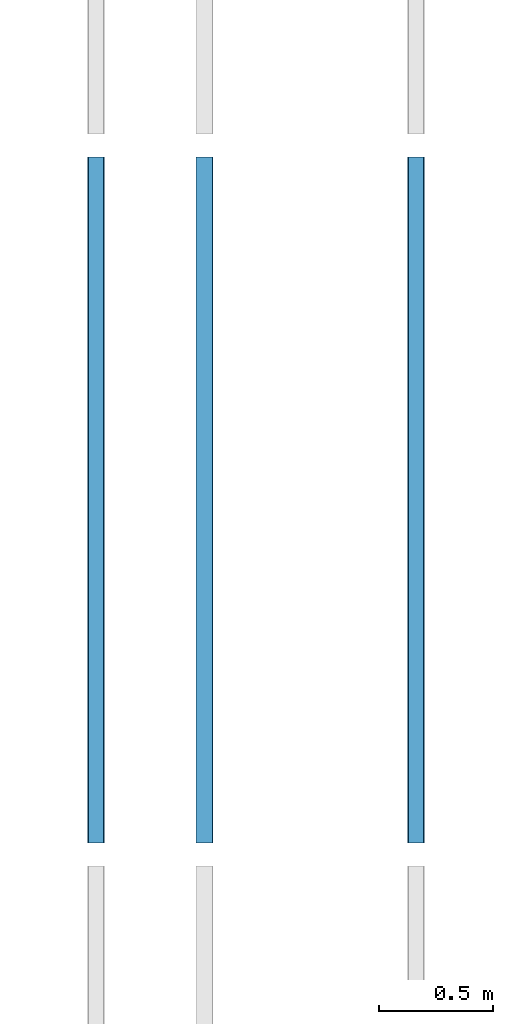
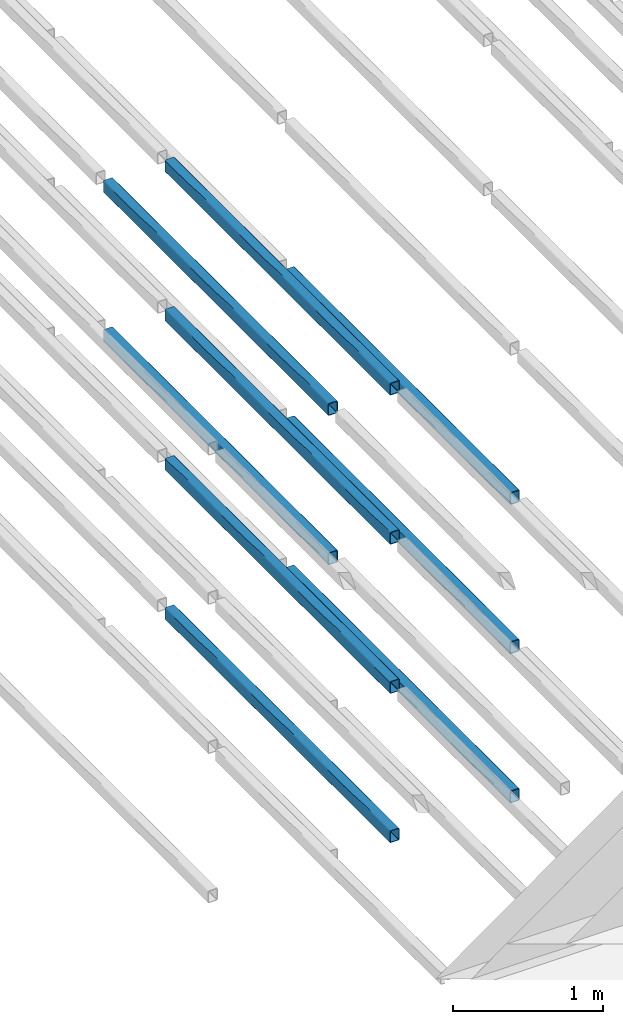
# One storey, part 26 of 290: 9 beams.
"""IFC2X3 building model written with IfcOpenShell, lengths in metres."""

from ifc_helpers import new_model, entity, si_unit, converted_unit, derived_unit, direction, frame, frame_2d, origin, place, context, subcontext, project, spatial, polyline, circle_curve, parameter, trimmed, segment, composite_curve, outline, extrude, material, type_object, element, save


model = new_model("IFC2X3")

# Units and contexts
model_context = context("Model", 3, precision=1e-05, world=origin(), true_north=direction((6.12303176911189e-17, 1.0)))
body_context = subcontext(model_context, "Body", "Model", "MODEL_VIEW")
ifc_project = project(units=[si_unit("LENGTHUNIT", "METRE"), si_unit("AREAUNIT", "SQUARE_METRE"), si_unit("VOLUMEUNIT", "CUBIC_METRE"), converted_unit("PLANEANGLEUNIT", "DEGREE", entity("IfcRatioMeasure", 0.0174532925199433), si_unit("PLANEANGLEUNIT", "RADIAN"), dimensions=[0, 0, 0, 0, 0, 0, 0]), si_unit("MASSUNIT", "GRAM", prefix="KILO"), derived_unit("MASSDENSITYUNIT", [(si_unit("MASSUNIT", "GRAM", prefix="KILO"), 1), (si_unit("LENGTHUNIT", "METRE"), -3)]), derived_unit("MOMENTOFINERTIAUNIT", [(si_unit("LENGTHUNIT", "METRE"), 4)]), si_unit("TIMEUNIT", "SECOND"), si_unit("FREQUENCYUNIT", "HERTZ"), si_unit("THERMODYNAMICTEMPERATUREUNIT", "DEGREE_CELSIUS"), derived_unit("THERMALTRANSMITTANCEUNIT", [(si_unit("MASSUNIT", "GRAM", prefix="KILO"), 1), (si_unit("THERMODYNAMICTEMPERATUREUNIT", "KELVIN"), -1), (si_unit("TIMEUNIT", "SECOND"), -3)]), derived_unit("VOLUMETRICFLOWRATEUNIT", [(si_unit("LENGTHUNIT", "METRE"), 3), (si_unit("TIMEUNIT", "SECOND"), -1)]), si_unit("ELECTRICCURRENTUNIT", "AMPERE"), si_unit("ELECTRICVOLTAGEUNIT", "VOLT"), si_unit("POWERUNIT", "WATT"), si_unit("FORCEUNIT", "NEWTON", prefix="KILO"), si_unit("ILLUMINANCEUNIT", "LUX"), si_unit("LUMINOUSFLUXUNIT", "LUMEN"), si_unit("LUMINOUSINTENSITYUNIT", "CANDELA"), derived_unit("USERDEFINED", [(si_unit("MASSUNIT", "GRAM", prefix="KILO"), -1), (si_unit("LENGTHUNIT", "METRE"), -2), (si_unit("TIMEUNIT", "SECOND"), 3), (si_unit("LUMINOUSFLUXUNIT", "LUMEN"), 1)]), derived_unit("LINEARVELOCITYUNIT", [(si_unit("LENGTHUNIT", "METRE"), 1), (si_unit("TIMEUNIT", "SECOND"), -1)]), si_unit("PRESSUREUNIT", "PASCAL"), derived_unit("USERDEFINED", [(si_unit("LENGTHUNIT", "METRE"), -2), (si_unit("MASSUNIT", "GRAM", prefix="KILO"), 1), (si_unit("TIMEUNIT", "SECOND"), -2)]), derived_unit("LINEARFORCEUNIT", [(si_unit("MASSUNIT", "GRAM", prefix="KILO"), 1), (si_unit("LENGTHUNIT", "METRE"), 1), (si_unit("TIMEUNIT", "SECOND"), -2), (si_unit("LENGTHUNIT", "METRE"), -1)]), derived_unit("PLANARFORCEUNIT", [(si_unit("MASSUNIT", "GRAM", prefix="KILO"), 1), (si_unit("LENGTHUNIT", "METRE"), 1), (si_unit("TIMEUNIT", "SECOND"), -2), (si_unit("LENGTHUNIT", "METRE"), -2)])], contexts=[model_context])

# Site, building, storey
site_placement = place(None, origin())
site = spatial("IfcSite", under=ifc_project, at=site_placement, Name="Default", CompositionType="ELEMENT")
building_placement = place(site_placement, origin())
building = spatial("IfcBuilding", under=site, at=building_placement, CompositionType="ELEMENT")
storey_placement = place(building_placement, frame((0.0, 0.0, 4.0)))
storey = spatial("IfcBuildingStorey", under=building, at=storey_placement, Name="01_OG", CompositionType="ELEMENT", Elevation=4.0)

# Beams
ifc_material = material(Name="Metall - Baustahl S235 blau")
beam_type = type_object("IfcBeamType", Name="RHS Träger (EN 10219-2):RHS 100 x 75 x 5", PredefinedType="NOTDEFINED")
beam_1_placement = place(storey_placement, frame((-189.865111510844, 27.148088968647, 1.23), z_axis=(0.0, 0.0, 1.0), x_axis=(0.0, 1.0, 0.0)))
element("IfcBeam", 1, at=beam_1_placement, inside=storey, type_object=beam_type, material=ifc_material, Name="RHS Träger (EN 10219-2):RHS 100 x 75 x 5", ObjectType="RHS Träger (EN 10219-2):RHS 100 x 75 x 5", context=body_context, shape_type="SweptSolid", body=[
    extrude(outline(composite_curve([segment(polyline([(-0.0399999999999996, -0.0375000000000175), (0.0399999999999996, -0.0375000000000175)]), True, "CONTINUOUS"), segment(trimmed(circle_curve(frame_2d((0.0399999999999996, -0.0275000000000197), x_axis=(0.0, 1.0)), 0.01), [parameter(180.0)], [parameter(270.0)], True, "PARAMETER"), True, "CONTINUOUS"), segment(polyline([(0.0500000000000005, -0.0275000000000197), (0.0500000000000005, 0.0274999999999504)]), True, "CONTINUOUS"), segment(trimmed(circle_curve(frame_2d((0.0399999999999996, 0.0274999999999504), x_axis=(0.0, 1.0)), 0.01), [parameter(270.0)], [parameter(4.07110999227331e-13)], True, "PARAMETER"), True, "CONTINUOUS"), segment(polyline([(0.0399999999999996, 0.0374999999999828), (-0.0399999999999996, 0.0374999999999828)]), True, "CONTINUOUS"), segment(trimmed(circle_curve(frame_2d((-0.0399999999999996, 0.0274999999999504), x_axis=(0.0, 1.0)), 0.01), [parameter(360.0)], [parameter(90.0000000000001)], True, "PARAMETER"), True, "CONTINUOUS"), segment(polyline([(-0.0499999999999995, 0.0274999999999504), (-0.0499999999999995, -0.0275000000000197)]), True, "CONTINUOUS"), segment(trimmed(circle_curve(frame_2d((-0.0399999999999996, -0.0275000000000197), x_axis=(0.0, 1.0)), 0.01), [parameter(90.0000000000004)], [parameter(180.0)], True, "PARAMETER"), True, "CONTINUOUS")], self_intersect=False), holes=[composite_curve([segment(trimmed(circle_curve(frame_2d((-0.0400000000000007, 0.0274999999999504), x_axis=(0.0, 1.0)), 0.005), [parameter(360.0)], [parameter(89.9999999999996)], True, "PARAMETER"), False, "CONTINUOUS"), segment(polyline([(-0.0400000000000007, 0.0324999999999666), (0.0399999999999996, 0.0324999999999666)]), True, "CONTINUOUS"), segment(trimmed(circle_curve(frame_2d((0.0399999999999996, 0.0274999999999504), x_axis=(0.0, 1.0)), 0.005), [parameter(270.0)], [parameter(0.0)], True, "PARAMETER"), False, "CONTINUOUS"), segment(polyline([(0.0449999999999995, 0.0274999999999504), (0.0449999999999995, -0.0275000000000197)]), True, "CONTINUOUS"), segment(trimmed(circle_curve(frame_2d((0.0399999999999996, -0.0275000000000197), x_axis=(0.0, 1.0)), 0.005), [parameter(180.0)], [parameter(269.999999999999)], True, "PARAMETER"), False, "CONTINUOUS"), segment(polyline([(0.0399999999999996, -0.0325000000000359), (-0.0400000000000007, -0.0325000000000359)]), True, "CONTINUOUS"), segment(trimmed(circle_curve(frame_2d((-0.0400000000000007, -0.0275000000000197), x_axis=(0.0, 1.0)), 0.005), [parameter(90.0000000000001)], [parameter(180.0)], True, "PARAMETER"), False, "CONTINUOUS"), segment(polyline([(-0.0450000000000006, -0.0275000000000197), (-0.0450000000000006, 0.0274999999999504)]), True, "CONTINUOUS")], self_intersect=False)]), frame((9.99999999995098e-05, -0.0374999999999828, -0.0500000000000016), z_axis=(1.0, 0.0, 0.0), x_axis=(0.0, 0.0, -1.0)), (0.0, 0.0, 1.0), 2.9998),
])
beam_2_placement = place(storey_placement, frame((-189.865111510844, 27.148088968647, 2.445), z_axis=(0.0, 0.0, 1.0), x_axis=(0.0, 1.0, 0.0)))
element("IfcBeam", 2, at=beam_2_placement, inside=storey, type_object=beam_type, material=ifc_material, Name="RHS Träger (EN 10219-2):RHS 100 x 75 x 5", ObjectType="RHS Träger (EN 10219-2):RHS 100 x 75 x 5", context=body_context, shape_type="SweptSolid", body=[
    extrude(outline(composite_curve([segment(polyline([(-0.0399999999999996, -0.0375000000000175), (0.0399999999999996, -0.0375000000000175)]), True, "CONTINUOUS"), segment(trimmed(circle_curve(frame_2d((0.0399999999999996, -0.0275000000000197), x_axis=(0.0, 1.0)), 0.01), [parameter(180.0)], [parameter(270.0)], True, "PARAMETER"), True, "CONTINUOUS"), segment(polyline([(0.0500000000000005, -0.0275000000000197), (0.0500000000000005, 0.0274999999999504)]), True, "CONTINUOUS"), segment(trimmed(circle_curve(frame_2d((0.0399999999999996, 0.0274999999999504), x_axis=(0.0, 1.0)), 0.01), [parameter(270.0)], [parameter(4.07110999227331e-13)], True, "PARAMETER"), True, "CONTINUOUS"), segment(polyline([(0.0399999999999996, 0.0374999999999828), (-0.0399999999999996, 0.0374999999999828)]), True, "CONTINUOUS"), segment(trimmed(circle_curve(frame_2d((-0.0399999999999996, 0.0274999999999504), x_axis=(0.0, 1.0)), 0.01), [parameter(360.0)], [parameter(90.0000000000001)], True, "PARAMETER"), True, "CONTINUOUS"), segment(polyline([(-0.0499999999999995, 0.0274999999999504), (-0.0499999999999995, -0.0275000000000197)]), True, "CONTINUOUS"), segment(trimmed(circle_curve(frame_2d((-0.0399999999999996, -0.0275000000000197), x_axis=(0.0, 1.0)), 0.01), [parameter(90.0000000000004)], [parameter(180.0)], True, "PARAMETER"), True, "CONTINUOUS")], self_intersect=False), holes=[composite_curve([segment(trimmed(circle_curve(frame_2d((-0.0400000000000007, 0.0274999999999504), x_axis=(0.0, 1.0)), 0.005), [parameter(360.0)], [parameter(89.9999999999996)], True, "PARAMETER"), False, "CONTINUOUS"), segment(polyline([(-0.0400000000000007, 0.0324999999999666), (0.0399999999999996, 0.0324999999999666)]), True, "CONTINUOUS"), segment(trimmed(circle_curve(frame_2d((0.0399999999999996, 0.0274999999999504), x_axis=(0.0, 1.0)), 0.005), [parameter(270.0)], [parameter(0.0)], True, "PARAMETER"), False, "CONTINUOUS"), segment(polyline([(0.0449999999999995, 0.0274999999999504), (0.0449999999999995, -0.0275000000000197)]), True, "CONTINUOUS"), segment(trimmed(circle_curve(frame_2d((0.0399999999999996, -0.0275000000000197), x_axis=(0.0, 1.0)), 0.005), [parameter(180.0)], [parameter(269.999999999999)], True, "PARAMETER"), False, "CONTINUOUS"), segment(polyline([(0.0399999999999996, -0.0325000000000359), (-0.0400000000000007, -0.0325000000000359)]), True, "CONTINUOUS"), segment(trimmed(circle_curve(frame_2d((-0.0400000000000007, -0.0275000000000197), x_axis=(0.0, 1.0)), 0.005), [parameter(90.0000000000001)], [parameter(180.0)], True, "PARAMETER"), False, "CONTINUOUS"), segment(polyline([(-0.0450000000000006, -0.0275000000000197), (-0.0450000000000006, 0.0274999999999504)]), True, "CONTINUOUS")], self_intersect=False)]), frame((9.99999999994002e-05, -0.0374999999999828, -0.0500000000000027), z_axis=(1.0, 0.0, 0.0), x_axis=(0.0, 0.0, -1.0)), (0.0, 0.0, 1.0), 2.9998),
])
beam_3_placement = place(storey_placement, frame((-189.315111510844, 27.148088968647, -1.2), z_axis=(0.0, 0.0, 1.0), x_axis=(0.0, 1.0, 0.0)))
element("IfcBeam", 3, at=beam_3_placement, inside=storey, type_object=beam_type, material=ifc_material, Name="RHS Träger (EN 10219-2):RHS 100 x 75 x 5", ObjectType="RHS Träger (EN 10219-2):RHS 100 x 75 x 5", context=body_context, shape_type="SweptSolid", body=[
    extrude(outline(composite_curve([segment(trimmed(circle_curve(frame_2d((-0.0274999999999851, -0.0400000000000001), x_axis=(1.0, 0.0)), 0.01), [parameter(180.0)], [parameter(270.0)], True, "PARAMETER"), True, "CONTINUOUS"), segment(polyline([(-0.0274999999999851, -0.05), (0.0274999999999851, -0.05)]), True, "CONTINUOUS"), segment(trimmed(circle_curve(frame_2d((0.0274999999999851, -0.0400000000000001), x_axis=(1.0, 0.0)), 0.01), [parameter(270.0)], [parameter(5.08888749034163e-14)], True, "PARAMETER"), True, "CONTINUOUS"), segment(polyline([(0.0375000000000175, -0.0400000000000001), (0.0375000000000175, 0.0400000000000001)]), True, "CONTINUOUS"), segment(trimmed(circle_curve(frame_2d((0.0274999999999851, 0.0400000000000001), x_axis=(1.0, 0.0)), 0.01), [parameter(360.0)], [parameter(89.9999999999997)], True, "PARAMETER"), True, "CONTINUOUS"), segment(polyline([(0.0274999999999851, 0.05), (-0.0274999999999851, 0.05)]), True, "CONTINUOUS"), segment(trimmed(circle_curve(frame_2d((-0.0274999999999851, 0.0400000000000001), x_axis=(1.0, 0.0)), 0.01), [parameter(90.0000000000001)], [parameter(180.0)], True, "PARAMETER"), True, "CONTINUOUS"), segment(polyline([(-0.0374999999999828, 0.0400000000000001), (-0.0374999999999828, -0.0400000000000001)]), True, "CONTINUOUS")], self_intersect=False), holes=[composite_curve([segment(polyline([(0.0274999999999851, -0.0450000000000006), (-0.0274999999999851, -0.0450000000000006)]), True, "CONTINUOUS"), segment(trimmed(circle_curve(frame_2d((-0.0274999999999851, -0.0400000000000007), x_axis=(1.0, 0.0)), 0.005), [parameter(180.0)], [parameter(270.0)], True, "PARAMETER"), False, "CONTINUOUS"), segment(polyline([(-0.0325000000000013, -0.0400000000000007), (-0.0325000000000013, 0.039999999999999)]), True, "CONTINUOUS"), segment(trimmed(circle_curve(frame_2d((-0.0274999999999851, 0.039999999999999), x_axis=(1.0, 0.0)), 0.005), [parameter(90.0000000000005)], [parameter(180.0)], True, "PARAMETER"), False, "CONTINUOUS"), segment(polyline([(-0.0274999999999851, 0.044999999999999), (0.0274999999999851, 0.044999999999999)]), True, "CONTINUOUS"), segment(trimmed(circle_curve(frame_2d((0.0274999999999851, 0.039999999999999), x_axis=(1.0, 0.0)), 0.005), [parameter(0.0)], [parameter(90.0000000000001)], True, "PARAMETER"), False, "CONTINUOUS"), segment(polyline([(0.0325000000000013, 0.039999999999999), (0.0325000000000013, -0.0400000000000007)]), True, "CONTINUOUS"), segment(trimmed(circle_curve(frame_2d((0.0274999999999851, -0.0400000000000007), x_axis=(1.0, 0.0)), 0.005), [parameter(270.0)], [parameter(4.07110999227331e-13)], True, "PARAMETER"), False, "CONTINUOUS")], self_intersect=False)]), frame((0.000100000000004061, 0.0375000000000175, -0.0500000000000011), z_axis=(1.0, 0.0, 0.0), x_axis=(0.0, -1.0, 0.0)), (0.0, 0.0, 1.0), 2.9998),
])
beam_4_placement = place(storey_placement, frame((-189.315111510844, 27.148088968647, 0.0150000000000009), z_axis=(0.0, 0.0, 1.0), x_axis=(0.0, 1.0, 0.0)))
element("IfcBeam", 4, at=beam_4_placement, inside=storey, type_object=beam_type, material=ifc_material, Name="RHS Träger (EN 10219-2):RHS 100 x 75 x 5", ObjectType="RHS Träger (EN 10219-2):RHS 100 x 75 x 5", context=body_context, shape_type="SweptSolid", body=[
    extrude(outline(composite_curve([segment(trimmed(circle_curve(frame_2d((-0.0274999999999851, -0.0400000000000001), x_axis=(1.0, 0.0)), 0.01), [parameter(180.0)], [parameter(270.0)], True, "PARAMETER"), True, "CONTINUOUS"), segment(polyline([(-0.0274999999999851, -0.05), (0.0274999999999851, -0.05)]), True, "CONTINUOUS"), segment(trimmed(circle_curve(frame_2d((0.0274999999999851, -0.0400000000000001), x_axis=(1.0, 0.0)), 0.01), [parameter(270.0)], [parameter(5.08888749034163e-14)], True, "PARAMETER"), True, "CONTINUOUS"), segment(polyline([(0.0375000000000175, -0.0400000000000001), (0.0375000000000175, 0.0400000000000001)]), True, "CONTINUOUS"), segment(trimmed(circle_curve(frame_2d((0.0274999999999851, 0.0400000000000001), x_axis=(1.0, 0.0)), 0.01), [parameter(360.0)], [parameter(89.9999999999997)], True, "PARAMETER"), True, "CONTINUOUS"), segment(polyline([(0.0274999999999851, 0.05), (-0.0274999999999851, 0.05)]), True, "CONTINUOUS"), segment(trimmed(circle_curve(frame_2d((-0.0274999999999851, 0.0400000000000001), x_axis=(1.0, 0.0)), 0.01), [parameter(90.0000000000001)], [parameter(180.0)], True, "PARAMETER"), True, "CONTINUOUS"), segment(polyline([(-0.0374999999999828, 0.0400000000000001), (-0.0374999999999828, -0.0400000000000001)]), True, "CONTINUOUS")], self_intersect=False), holes=[composite_curve([segment(polyline([(0.0274999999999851, -0.0450000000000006), (-0.0274999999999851, -0.0450000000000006)]), True, "CONTINUOUS"), segment(trimmed(circle_curve(frame_2d((-0.0274999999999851, -0.0400000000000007), x_axis=(1.0, 0.0)), 0.005), [parameter(180.0)], [parameter(270.0)], True, "PARAMETER"), False, "CONTINUOUS"), segment(polyline([(-0.0325000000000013, -0.0400000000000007), (-0.0325000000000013, 0.039999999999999)]), True, "CONTINUOUS"), segment(trimmed(circle_curve(frame_2d((-0.0274999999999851, 0.039999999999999), x_axis=(1.0, 0.0)), 0.005), [parameter(90.0000000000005)], [parameter(180.0)], True, "PARAMETER"), False, "CONTINUOUS"), segment(polyline([(-0.0274999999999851, 0.044999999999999), (0.0274999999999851, 0.044999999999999)]), True, "CONTINUOUS"), segment(trimmed(circle_curve(frame_2d((0.0274999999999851, 0.039999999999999), x_axis=(1.0, 0.0)), 0.005), [parameter(0.0)], [parameter(90.0000000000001)], True, "PARAMETER"), False, "CONTINUOUS"), segment(polyline([(0.0325000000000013, 0.039999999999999), (0.0325000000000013, -0.0400000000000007)]), True, "CONTINUOUS"), segment(trimmed(circle_curve(frame_2d((0.0274999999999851, -0.0400000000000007), x_axis=(1.0, 0.0)), 0.005), [parameter(270.0)], [parameter(4.07110999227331e-13)], True, "PARAMETER"), False, "CONTINUOUS")], self_intersect=False)]), frame((0.000100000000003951, 0.0375000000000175, -0.0500000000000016), z_axis=(1.0, 0.0, 0.0), x_axis=(0.0, -1.0, 0.0)), (0.0, 0.0, 1.0), 2.9998),
])
beam_5_placement = place(storey_placement, frame((-189.315111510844, 27.148088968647, 1.23), z_axis=(0.0, 0.0, 1.0), x_axis=(0.0, 1.0, 0.0)))
element("IfcBeam", 5, at=beam_5_placement, inside=storey, type_object=beam_type, material=ifc_material, Name="RHS Träger (EN 10219-2):RHS 100 x 75 x 5", ObjectType="RHS Träger (EN 10219-2):RHS 100 x 75 x 5", context=body_context, shape_type="SweptSolid", body=[
    extrude(outline(composite_curve([segment(trimmed(circle_curve(frame_2d((-0.0274999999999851, -0.0399999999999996), x_axis=(1.0, 0.0)), 0.01), [parameter(180.0)], [parameter(270.0)], True, "PARAMETER"), True, "CONTINUOUS"), segment(polyline([(-0.0274999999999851, -0.0499999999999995), (0.0274999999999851, -0.0499999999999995)]), True, "CONTINUOUS"), segment(trimmed(circle_curve(frame_2d((0.0274999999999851, -0.0399999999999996), x_axis=(1.0, 0.0)), 0.01), [parameter(270.0)], [parameter(5.08888749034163e-14)], True, "PARAMETER"), True, "CONTINUOUS"), segment(polyline([(0.0375000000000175, -0.0399999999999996), (0.0375000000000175, 0.0399999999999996)]), True, "CONTINUOUS"), segment(trimmed(circle_curve(frame_2d((0.0274999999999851, 0.0399999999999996), x_axis=(1.0, 0.0)), 0.01), [parameter(360.0)], [parameter(89.9999999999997)], True, "PARAMETER"), True, "CONTINUOUS"), segment(polyline([(0.0274999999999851, 0.0500000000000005), (-0.0274999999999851, 0.0500000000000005)]), True, "CONTINUOUS"), segment(trimmed(circle_curve(frame_2d((-0.0274999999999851, 0.0399999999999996), x_axis=(1.0, 0.0)), 0.01), [parameter(90.0000000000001)], [parameter(180.0)], True, "PARAMETER"), True, "CONTINUOUS"), segment(polyline([(-0.0374999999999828, 0.0399999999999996), (-0.0374999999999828, -0.0399999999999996)]), True, "CONTINUOUS")], self_intersect=False), holes=[composite_curve([segment(polyline([(0.0274999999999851, -0.0450000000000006), (-0.0274999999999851, -0.0450000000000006)]), True, "CONTINUOUS"), segment(trimmed(circle_curve(frame_2d((-0.0274999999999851, -0.0400000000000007), x_axis=(1.0, 0.0)), 0.005), [parameter(180.0)], [parameter(270.0)], True, "PARAMETER"), False, "CONTINUOUS"), segment(polyline([(-0.0325000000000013, -0.0400000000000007), (-0.0325000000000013, 0.0399999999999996)]), True, "CONTINUOUS"), segment(trimmed(circle_curve(frame_2d((-0.0274999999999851, 0.0399999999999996), x_axis=(1.0, 0.0)), 0.005), [parameter(90.0000000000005)], [parameter(180.0)], True, "PARAMETER"), False, "CONTINUOUS"), segment(polyline([(-0.0274999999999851, 0.0449999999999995), (0.0274999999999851, 0.0449999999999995)]), True, "CONTINUOUS"), segment(trimmed(circle_curve(frame_2d((0.0274999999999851, 0.0399999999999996), x_axis=(1.0, 0.0)), 0.005), [parameter(0.0)], [parameter(90.0000000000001)], True, "PARAMETER"), False, "CONTINUOUS"), segment(polyline([(0.0325000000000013, 0.0399999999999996), (0.0325000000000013, -0.0400000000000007)]), True, "CONTINUOUS"), segment(trimmed(circle_curve(frame_2d((0.0274999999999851, -0.0400000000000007), x_axis=(1.0, 0.0)), 0.005), [parameter(270.0)], [parameter(4.07110999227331e-13)], True, "PARAMETER"), False, "CONTINUOUS")], self_intersect=False)]), frame((0.000100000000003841, 0.0375000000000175, -0.0500000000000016), z_axis=(1.0, 0.0, 0.0), x_axis=(0.0, -1.0, 0.0)), (0.0, 0.0, 1.0), 2.9998),
])
beam_6_placement = place(storey_placement, frame((-189.315111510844, 27.148088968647, 2.445), z_axis=(0.0, 0.0, 1.0), x_axis=(0.0, 1.0, 0.0)))
element("IfcBeam", 6, at=beam_6_placement, inside=storey, type_object=beam_type, material=ifc_material, Name="RHS Träger (EN 10219-2):RHS 100 x 75 x 5", ObjectType="RHS Träger (EN 10219-2):RHS 100 x 75 x 5", context=body_context, shape_type="SweptSolid", body=[
    extrude(outline(composite_curve([segment(trimmed(circle_curve(frame_2d((-0.0274999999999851, -0.0399999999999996), x_axis=(1.0, 0.0)), 0.01), [parameter(180.0)], [parameter(270.0)], True, "PARAMETER"), True, "CONTINUOUS"), segment(polyline([(-0.0274999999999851, -0.0499999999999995), (0.0274999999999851, -0.0499999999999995)]), True, "CONTINUOUS"), segment(trimmed(circle_curve(frame_2d((0.0274999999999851, -0.0399999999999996), x_axis=(1.0, 0.0)), 0.01), [parameter(270.0)], [parameter(5.08888749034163e-14)], True, "PARAMETER"), True, "CONTINUOUS"), segment(polyline([(0.0375000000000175, -0.0399999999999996), (0.0375000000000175, 0.0399999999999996)]), True, "CONTINUOUS"), segment(trimmed(circle_curve(frame_2d((0.0274999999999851, 0.0399999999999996), x_axis=(1.0, 0.0)), 0.01), [parameter(360.0)], [parameter(89.9999999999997)], True, "PARAMETER"), True, "CONTINUOUS"), segment(polyline([(0.0274999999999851, 0.0500000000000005), (-0.0274999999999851, 0.0500000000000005)]), True, "CONTINUOUS"), segment(trimmed(circle_curve(frame_2d((-0.0274999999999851, 0.0399999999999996), x_axis=(1.0, 0.0)), 0.01), [parameter(90.0000000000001)], [parameter(180.0)], True, "PARAMETER"), True, "CONTINUOUS"), segment(polyline([(-0.0374999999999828, 0.0399999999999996), (-0.0374999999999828, -0.0399999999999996)]), True, "CONTINUOUS")], self_intersect=False), holes=[composite_curve([segment(polyline([(0.0274999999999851, -0.0450000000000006), (-0.0274999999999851, -0.0450000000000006)]), True, "CONTINUOUS"), segment(trimmed(circle_curve(frame_2d((-0.0274999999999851, -0.0400000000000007), x_axis=(1.0, 0.0)), 0.005), [parameter(180.0)], [parameter(270.0)], True, "PARAMETER"), False, "CONTINUOUS"), segment(polyline([(-0.0325000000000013, -0.0400000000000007), (-0.0325000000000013, 0.0399999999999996)]), True, "CONTINUOUS"), segment(trimmed(circle_curve(frame_2d((-0.0274999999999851, 0.0399999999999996), x_axis=(1.0, 0.0)), 0.005), [parameter(90.0000000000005)], [parameter(180.0)], True, "PARAMETER"), False, "CONTINUOUS"), segment(polyline([(-0.0274999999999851, 0.0449999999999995), (0.0274999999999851, 0.0449999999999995)]), True, "CONTINUOUS"), segment(trimmed(circle_curve(frame_2d((0.0274999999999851, 0.0399999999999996), x_axis=(1.0, 0.0)), 0.005), [parameter(0.0)], [parameter(90.0000000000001)], True, "PARAMETER"), False, "CONTINUOUS"), segment(polyline([(0.0325000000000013, 0.0399999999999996), (0.0325000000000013, -0.0400000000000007)]), True, "CONTINUOUS"), segment(trimmed(circle_curve(frame_2d((0.0274999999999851, -0.0400000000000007), x_axis=(1.0, 0.0)), 0.005), [parameter(270.0)], [parameter(4.07110999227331e-13)], True, "PARAMETER"), False, "CONTINUOUS")], self_intersect=False)]), frame((0.000100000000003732, 0.0375000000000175, -0.0500000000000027), z_axis=(1.0, 0.0, 0.0), x_axis=(0.0, -1.0, 0.0)), (0.0, 0.0, 1.0), 2.9998),
])
beam_7_placement = place(storey_placement, frame((-188.465111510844, 27.148088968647, -1.2), z_axis=(0.0, 0.0, 1.0), x_axis=(0.0, 1.0, 0.0)))
element("IfcBeam", 7, at=beam_7_placement, inside=storey, type_object=beam_type, material=ifc_material, Name="RHS Träger (EN 10219-2):RHS 100 x 75 x 5", ObjectType="RHS Träger (EN 10219-2):RHS 100 x 75 x 5", context=body_context, shape_type="SweptSolid", body=[
    extrude(outline(composite_curve([segment(polyline([(-0.0400000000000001, -0.0374999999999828), (0.0400000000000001, -0.0374999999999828)]), True, "CONTINUOUS"), segment(trimmed(circle_curve(frame_2d((0.0400000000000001, -0.0274999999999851), x_axis=(0.0, 1.0)), 0.01), [parameter(180.0)], [parameter(270.0)], True, "PARAMETER"), True, "CONTINUOUS"), segment(polyline([(0.05, -0.0274999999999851), (0.05, 0.0274999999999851)]), True, "CONTINUOUS"), segment(trimmed(circle_curve(frame_2d((0.0400000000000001, 0.0274999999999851), x_axis=(0.0, 1.0)), 0.01), [parameter(270.0)], [parameter(4.07110999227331e-13)], True, "PARAMETER"), True, "CONTINUOUS"), segment(polyline([(0.0400000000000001, 0.0375000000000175), (-0.0400000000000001, 0.0375000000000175)]), True, "CONTINUOUS"), segment(trimmed(circle_curve(frame_2d((-0.0400000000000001, 0.0274999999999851), x_axis=(0.0, 1.0)), 0.01), [parameter(360.0)], [parameter(90.0000000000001)], True, "PARAMETER"), True, "CONTINUOUS"), segment(polyline([(-0.05, 0.0274999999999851), (-0.05, -0.0274999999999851)]), True, "CONTINUOUS"), segment(trimmed(circle_curve(frame_2d((-0.0400000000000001, -0.0274999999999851), x_axis=(0.0, 1.0)), 0.01), [parameter(90.0000000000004)], [parameter(180.0)], True, "PARAMETER"), True, "CONTINUOUS")], self_intersect=False), holes=[composite_curve([segment(trimmed(circle_curve(frame_2d((-0.0400000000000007, 0.0274999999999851), x_axis=(0.0, 1.0)), 0.005), [parameter(360.0)], [parameter(89.9999999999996)], True, "PARAMETER"), False, "CONTINUOUS"), segment(polyline([(-0.0400000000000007, 0.0325000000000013), (0.039999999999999, 0.0325000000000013)]), True, "CONTINUOUS"), segment(trimmed(circle_curve(frame_2d((0.039999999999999, 0.0274999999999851), x_axis=(0.0, 1.0)), 0.005), [parameter(270.0)], [parameter(0.0)], True, "PARAMETER"), False, "CONTINUOUS"), segment(polyline([(0.044999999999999, 0.0274999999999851), (0.044999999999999, -0.0274999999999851)]), True, "CONTINUOUS"), segment(trimmed(circle_curve(frame_2d((0.039999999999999, -0.0274999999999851), x_axis=(0.0, 1.0)), 0.005), [parameter(180.0)], [parameter(269.999999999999)], True, "PARAMETER"), False, "CONTINUOUS"), segment(polyline([(0.039999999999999, -0.0325000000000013), (-0.0400000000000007, -0.0325000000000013)]), True, "CONTINUOUS"), segment(trimmed(circle_curve(frame_2d((-0.0400000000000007, -0.0274999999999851), x_axis=(0.0, 1.0)), 0.005), [parameter(90.0000000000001)], [parameter(180.0)], True, "PARAMETER"), False, "CONTINUOUS"), segment(polyline([(-0.0450000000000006, -0.0274999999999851), (-0.0450000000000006, 0.0274999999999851)]), True, "CONTINUOUS")], self_intersect=False)]), frame((0.000100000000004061, -0.0375000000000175, -0.0500000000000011), z_axis=(1.0, 0.0, 0.0), x_axis=(0.0, 0.0, -1.0)), (0.0, 0.0, 1.0), 2.9998),
])
beam_8_placement = place(storey_placement, frame((-188.465111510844, 27.148088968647, 0.0150000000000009), z_axis=(0.0, 0.0, 1.0), x_axis=(0.0, 1.0, 0.0)))
element("IfcBeam", 8, at=beam_8_placement, inside=storey, type_object=beam_type, material=ifc_material, Name="RHS Träger (EN 10219-2):RHS 100 x 75 x 5", ObjectType="RHS Träger (EN 10219-2):RHS 100 x 75 x 5", context=body_context, shape_type="SweptSolid", body=[
    extrude(outline(composite_curve([segment(polyline([(-0.0400000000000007, -0.0374999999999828), (0.0399999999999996, -0.0374999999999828)]), True, "CONTINUOUS"), segment(trimmed(circle_curve(frame_2d((0.0399999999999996, -0.0274999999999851), x_axis=(0.0, 1.0)), 0.01), [parameter(180.0)], [parameter(270.0)], True, "PARAMETER"), True, "CONTINUOUS"), segment(polyline([(0.0499999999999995, -0.0274999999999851), (0.0499999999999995, 0.0274999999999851)]), True, "CONTINUOUS"), segment(trimmed(circle_curve(frame_2d((0.0399999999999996, 0.0274999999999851), x_axis=(0.0, 1.0)), 0.01), [parameter(270.0)], [parameter(4.07110999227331e-13)], True, "PARAMETER"), True, "CONTINUOUS"), segment(polyline([(0.0399999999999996, 0.0375000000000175), (-0.0400000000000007, 0.0375000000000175)]), True, "CONTINUOUS"), segment(trimmed(circle_curve(frame_2d((-0.0400000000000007, 0.0274999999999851), x_axis=(0.0, 1.0)), 0.01), [parameter(360.0)], [parameter(90.0000000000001)], True, "PARAMETER"), True, "CONTINUOUS"), segment(polyline([(-0.0500000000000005, 0.0274999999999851), (-0.0500000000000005, -0.0274999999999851)]), True, "CONTINUOUS"), segment(trimmed(circle_curve(frame_2d((-0.0400000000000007, -0.0274999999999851), x_axis=(0.0, 1.0)), 0.01), [parameter(90.0000000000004)], [parameter(180.0)], True, "PARAMETER"), True, "CONTINUOUS")], self_intersect=False), holes=[composite_curve([segment(trimmed(circle_curve(frame_2d((-0.0400000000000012, 0.0274999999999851), x_axis=(0.0, 1.0)), 0.005), [parameter(360.0)], [parameter(89.9999999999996)], True, "PARAMETER"), False, "CONTINUOUS"), segment(polyline([(-0.0400000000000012, 0.0325000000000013), (0.0399999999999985, 0.0325000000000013)]), True, "CONTINUOUS"), segment(trimmed(circle_curve(frame_2d((0.0399999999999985, 0.0274999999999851), x_axis=(0.0, 1.0)), 0.005), [parameter(270.0)], [parameter(0.0)], True, "PARAMETER"), False, "CONTINUOUS"), segment(polyline([(0.0449999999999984, 0.0274999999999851), (0.0449999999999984, -0.0274999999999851)]), True, "CONTINUOUS"), segment(trimmed(circle_curve(frame_2d((0.0399999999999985, -0.0274999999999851), x_axis=(0.0, 1.0)), 0.005), [parameter(180.0)], [parameter(269.999999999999)], True, "PARAMETER"), False, "CONTINUOUS"), segment(polyline([(0.0399999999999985, -0.0325000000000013), (-0.0400000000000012, -0.0325000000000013)]), True, "CONTINUOUS"), segment(trimmed(circle_curve(frame_2d((-0.0400000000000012, -0.0274999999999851), x_axis=(0.0, 1.0)), 0.005), [parameter(90.0000000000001)], [parameter(180.0)], True, "PARAMETER"), False, "CONTINUOUS"), segment(polyline([(-0.0450000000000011, -0.0274999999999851), (-0.0450000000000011, 0.0274999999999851)]), True, "CONTINUOUS")], self_intersect=False)]), frame((0.000100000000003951, -0.0375000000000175, -0.0500000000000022), z_axis=(1.0, 0.0, 0.0), x_axis=(0.0, 0.0, -1.0)), (0.0, 0.0, 1.0), 2.9998),
])
beam_9_placement = place(storey_placement, frame((-188.465111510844, 27.148088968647, 1.23), z_axis=(0.0, 0.0, 1.0), x_axis=(0.0, 1.0, 0.0)))
element("IfcBeam", 9, at=beam_9_placement, inside=storey, type_object=beam_type, material=ifc_material, Name="RHS Träger (EN 10219-2):RHS 100 x 75 x 5", ObjectType="RHS Träger (EN 10219-2):RHS 100 x 75 x 5", context=body_context, shape_type="SweptSolid", body=[
    extrude(outline(composite_curve([segment(polyline([(-0.0399999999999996, -0.0374999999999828), (0.0399999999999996, -0.0374999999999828)]), True, "CONTINUOUS"), segment(trimmed(circle_curve(frame_2d((0.0399999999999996, -0.0274999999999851), x_axis=(0.0, 1.0)), 0.01), [parameter(180.0)], [parameter(270.0)], True, "PARAMETER"), True, "CONTINUOUS"), segment(polyline([(0.0500000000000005, -0.0274999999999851), (0.0500000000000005, 0.0274999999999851)]), True, "CONTINUOUS"), segment(trimmed(circle_curve(frame_2d((0.0399999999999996, 0.0274999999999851), x_axis=(0.0, 1.0)), 0.01), [parameter(270.0)], [parameter(4.07110999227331e-13)], True, "PARAMETER"), True, "CONTINUOUS"), segment(polyline([(0.0399999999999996, 0.0375000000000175), (-0.0399999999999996, 0.0375000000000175)]), True, "CONTINUOUS"), segment(trimmed(circle_curve(frame_2d((-0.0399999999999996, 0.0274999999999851), x_axis=(0.0, 1.0)), 0.01), [parameter(360.0)], [parameter(90.0000000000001)], True, "PARAMETER"), True, "CONTINUOUS"), segment(polyline([(-0.0499999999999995, 0.0274999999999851), (-0.0499999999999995, -0.0274999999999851)]), True, "CONTINUOUS"), segment(trimmed(circle_curve(frame_2d((-0.0399999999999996, -0.0274999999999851), x_axis=(0.0, 1.0)), 0.01), [parameter(90.0000000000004)], [parameter(180.0)], True, "PARAMETER"), True, "CONTINUOUS")], self_intersect=False), holes=[composite_curve([segment(trimmed(circle_curve(frame_2d((-0.0400000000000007, 0.0274999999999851), x_axis=(0.0, 1.0)), 0.005), [parameter(360.0)], [parameter(89.9999999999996)], True, "PARAMETER"), False, "CONTINUOUS"), segment(polyline([(-0.0400000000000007, 0.0325000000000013), (0.0399999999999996, 0.0325000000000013)]), True, "CONTINUOUS"), segment(trimmed(circle_curve(frame_2d((0.0399999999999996, 0.0274999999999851), x_axis=(0.0, 1.0)), 0.005), [parameter(270.0)], [parameter(0.0)], True, "PARAMETER"), False, "CONTINUOUS"), segment(polyline([(0.0449999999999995, 0.0274999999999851), (0.0449999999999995, -0.0274999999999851)]), True, "CONTINUOUS"), segment(trimmed(circle_curve(frame_2d((0.0399999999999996, -0.0274999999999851), x_axis=(0.0, 1.0)), 0.005), [parameter(180.0)], [parameter(269.999999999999)], True, "PARAMETER"), False, "CONTINUOUS"), segment(polyline([(0.0399999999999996, -0.0325000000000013), (-0.0400000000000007, -0.0325000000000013)]), True, "CONTINUOUS"), segment(trimmed(circle_curve(frame_2d((-0.0400000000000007, -0.0274999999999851), x_axis=(0.0, 1.0)), 0.005), [parameter(90.0000000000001)], [parameter(180.0)], True, "PARAMETER"), False, "CONTINUOUS"), segment(polyline([(-0.0450000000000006, -0.0274999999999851), (-0.0450000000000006, 0.0274999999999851)]), True, "CONTINUOUS")], self_intersect=False)]), frame((0.000100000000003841, -0.0375000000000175, -0.0500000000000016), z_axis=(1.0, 0.0, 0.0), x_axis=(0.0, 0.0, -1.0)), (0.0, 0.0, 1.0), 2.9998),
])

save(model, "model.ifc")
